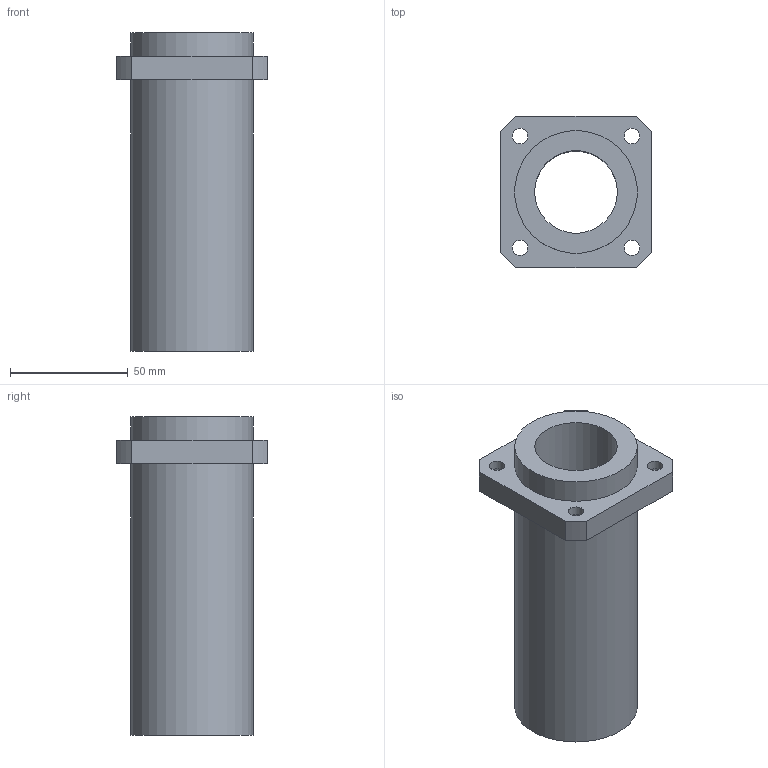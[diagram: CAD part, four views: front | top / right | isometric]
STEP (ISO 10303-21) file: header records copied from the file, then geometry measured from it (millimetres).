
FILE_DESCRIPTION(/* description */ (''),/* implementation_level */ '2;1');
FILE_NAME(/* name */ 'LMKP35LUU',/* time_stamp */ '2019-07-10T14:02:42+02:00',/* author */ ('VĂ©gh MĂˇtĂ©'),/* organization */ ('Bearing Kft'),/* preprocessor_version */ 'ST-DEVELOPER v16.7',/* originating_system */ 'DEX',/* authorisation */ $);
FILE_SCHEMA (('AUTOMOTIVE_DESIGN {1 0 10303 214 3 1 1}'));
Length unit declared in the file: millimetre
Products named in the file (1): LMKP35LUU
Bounding box: 64 x 64 x 135 mm (x, y, z)
Volume: 172932.9 mm3; surface area: 44705.6 mm2
Topology: 1 solids, 1 shells, 348 faces, 880 edges, 588 vertices
Faces by surface type: plane 268, bspline 63, cylinder 17
Full cylindrical faces by diameter (mm): 6.6 x4, 11 x4, 35 x1, 52 x2
Entity records: 13260 total; most frequent: CARTESIAN_POINT 5274, ORIENTED_EDGE 1728, DIRECTION 1344, EDGE_CURVE 864, LINE 704, VECTOR 704, VERTEX_POINT 584, EDGE_LOOP 424
